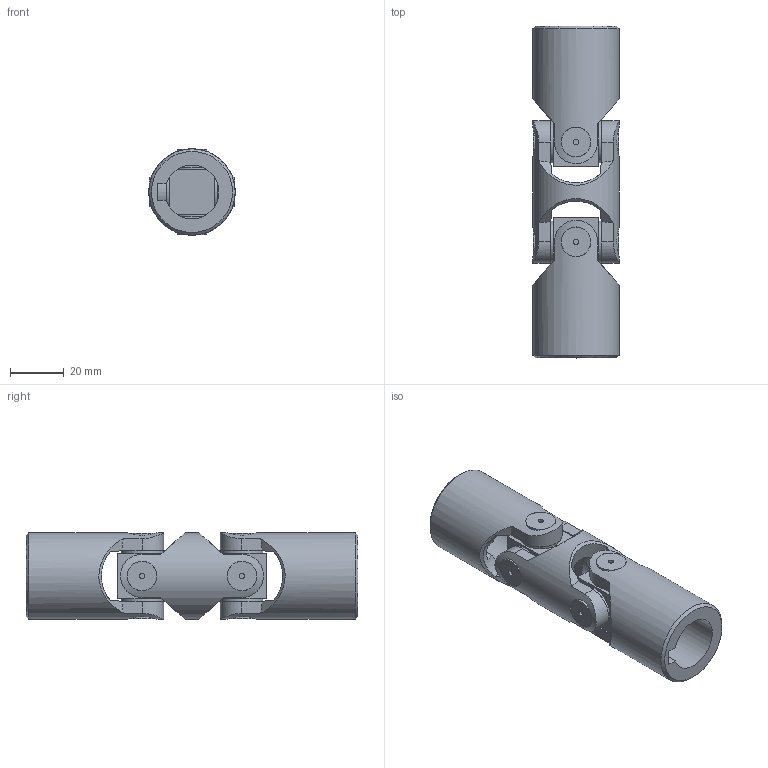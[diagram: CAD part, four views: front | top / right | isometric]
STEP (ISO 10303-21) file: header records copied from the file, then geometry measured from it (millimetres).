
FILE_DESCRIPTION(/* description */ (''),/* implementation_level */ '2;1');
FILE_NAME(/* name */ '\\SRV2016\Societa\Stefano\Disegni 3D\00Catalogo 3D\02Doppi GD-GBD\SGBD202C.stp',/* time_stamp */ '2021-11-22T17:27:45+01:00',/* author */ ('acquisti'),/* organization */ (''),/* preprocessor_version */ 'ST-DEVELOPER v15.6',/* originating_system */ 'Autodesk Inventor 2015',/* authorisation */ '');
FILE_SCHEMA (('AUTOMOTIVE_DESIGN { 1 0 10303 214 3 1 1 }'));
Length unit declared in the file: millimetre
Products named in the file (4): 1G MOD; 1G SFE; 3GB MOC; Ø32_3GBD-00_SGBD2000
Assembly tree (5 placements, depth 2):
  Ø32_3GBD-00_SGBD2000
    1G MOD
    1G SFE  x2
    3GB MOC  x2
Bounding box: 32 x 123 x 32 mm (x, y, z)
Volume: 60386.4 mm3; surface area: 25035.7 mm2
Topology: 5 solids, 5 shells, 169 faces, 399 edges, 258 vertices
Faces by surface type: plane 80, cylinder 63, cone 20, torus 6
Full cylindrical faces by diameter (mm): 2 x8, 15.5 x8, 18 x2, 32 x3
Entity records: 3852 total; most frequent: CARTESIAN_POINT 1318, ORIENTED_EDGE 498, DIRECTION 495, EDGE_CURVE 249, AXIS2_PLACEMENT_3D 217, VERTEX_POINT 171, EDGE_LOOP 152, FACE_OUTER_BOUND 116
